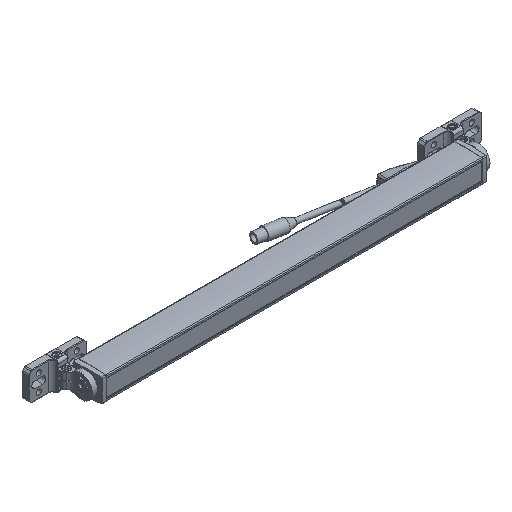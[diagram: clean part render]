
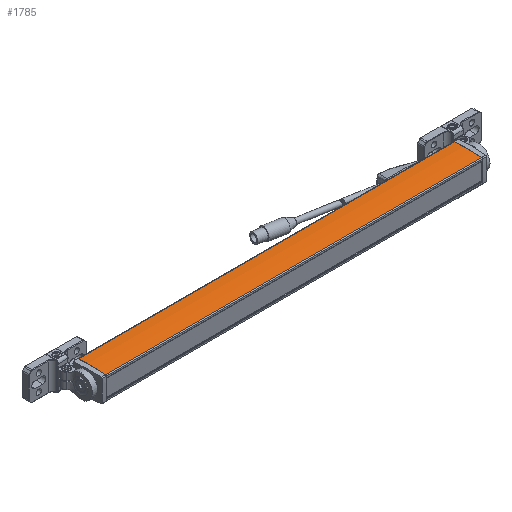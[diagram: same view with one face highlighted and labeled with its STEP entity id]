
A CAD part, isometric view. The second image highlights one B-rep face of the part: STEP entity #1785.
In plain terms, the highlighted cylindrical face has radius 250 mm (diameter 500 mm), a partial arc.
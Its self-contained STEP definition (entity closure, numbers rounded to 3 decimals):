
#1725=CARTESIAN_POINT('',(13.731,16.86,-152.0));
#1726=VERTEX_POINT('',#1725);
#1735=CARTESIAN_POINT('',(13.731,16.86,300.0));
#1736=VERTEX_POINT('',#1735);
#1744=CARTESIAN_POINT('',(13.731,16.86,300.0));
#1745=DIRECTION('',(0.0,0.0,-1.0));
#1746=VECTOR('',#1745,452.0);
#1747=LINE('',#1744,#1746);
#1748=EDGE_CURVE('',#1736,#1726,#1747,.T.);
#1753=CARTESIAN_POINT('',(-235.7,0.0,0.0));
#1754=DIRECTION('',(0.0,0.0,-1.0));
#1755=DIRECTION('',(-0.998,0.064,0.0));
#1756=AXIS2_PLACEMENT_3D('',#1753,#1754,#1755);
#1757=CYLINDRICAL_SURFACE('',#1756,250.);
#1758=CARTESIAN_POINT('',(13.793,-15.907,-152.0));
#1759=VERTEX_POINT('',#1758);
#1760=CARTESIAN_POINT('',(-235.7,0.0,-152.0));
#1761=DIRECTION('',(0.0,0.0,1.0));
#1762=DIRECTION('',(-0.998,0.064,0.0));
#1763=AXIS2_PLACEMENT_3D('',#1760,#1761,#1762);
#1764=CIRCLE('',#1763,250.);
#1765=EDGE_CURVE('',#1759,#1726,#1764,.T.);
#1766=ORIENTED_EDGE('',*,*,#1765,.T.);
#1767=ORIENTED_EDGE('',*,*,#1748,.F.);
#1768=CARTESIAN_POINT('',(13.793,-15.907,300.0));
#1769=VERTEX_POINT('',#1768);
#1770=CARTESIAN_POINT('',(-235.7,0.0,300.0));
#1771=DIRECTION('',(0.0,0.0,-1.0));
#1772=DIRECTION('',(-0.998,0.064,0.0));
#1773=AXIS2_PLACEMENT_3D('',#1770,#1771,#1772);
#1774=CIRCLE('',#1773,250.);
#1775=EDGE_CURVE('',#1736,#1769,#1774,.T.);
#1776=ORIENTED_EDGE('',*,*,#1775,.T.);
#1777=CARTESIAN_POINT('',(13.793,-15.907,300.0));
#1778=DIRECTION('',(0.0,0.0,-1.0));
#1779=VECTOR('',#1778,452.0);
#1780=LINE('',#1777,#1779);
#1781=EDGE_CURVE('',#1769,#1759,#1780,.T.);
#1782=ORIENTED_EDGE('',*,*,#1781,.T.);
#1783=EDGE_LOOP('',(#1766,#1767,#1776,#1782));
#1784=FACE_OUTER_BOUND('',#1783,.T.);
#1785=ADVANCED_FACE('',(#1784),#1757,.T.);
